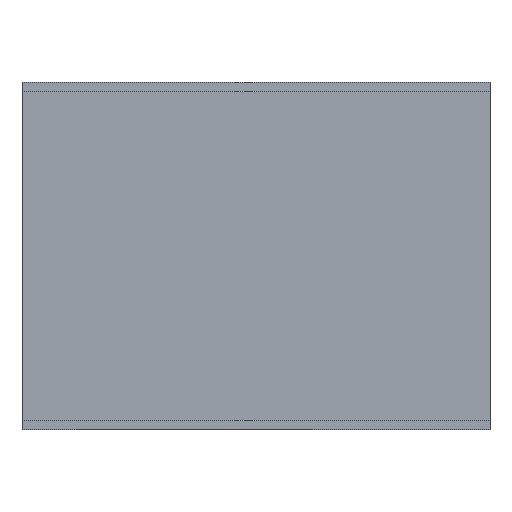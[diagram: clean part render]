
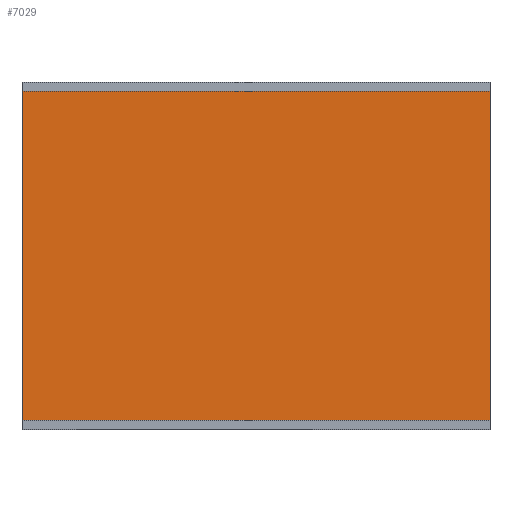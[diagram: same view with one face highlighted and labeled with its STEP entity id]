
A CAD part, top view. The second image highlights one B-rep face of the part: STEP entity #7029.
In plain terms, the highlighted planar face has unit normal (0, 0, 1).
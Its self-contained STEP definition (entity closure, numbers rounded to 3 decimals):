
#5402 = VERTEX_POINT('',#5403);
#5403 = CARTESIAN_POINT('',(0.,3.,100.));
#5410 = PLANE('',#5411);
#5411 = AXIS2_PLACEMENT_3D('',#5412,#5413,#5414);
#5412 = CARTESIAN_POINT('',(0.,3.,0.));
#5413 = DIRECTION('',(1.,0.,0.));
#5414 = DIRECTION('',(0.,0.,1.));
#5422 = PLANE('',#5423);
#5423 = AXIS2_PLACEMENT_3D('',#5424,#5425,#5426);
#5424 = CARTESIAN_POINT('',(0.,3.,0.));
#5425 = DIRECTION('',(0.,1.,0.));
#5426 = DIRECTION('',(0.,0.,1.));
#5463 = VERTEX_POINT('',#5464);
#5464 = CARTESIAN_POINT('',(0.,112.,100.));
#5478 = PLANE('',#5479);
#5479 = AXIS2_PLACEMENT_3D('',#5480,#5481,#5482);
#5480 = CARTESIAN_POINT('',(0.,112.,0.));
#5481 = DIRECTION('',(0.,1.,0.));
#5482 = DIRECTION('',(0.,0.,1.));
#5490 = EDGE_CURVE('',#5402,#5463,#5491,.T.);
#5491 = SURFACE_CURVE('',#5492,(#5496,#5503),.PCURVE_S1.);
#5492 = LINE('',#5493,#5494);
#5493 = CARTESIAN_POINT('',(0.,3.,100.));
#5494 = VECTOR('',#5495,1.);
#5495 = DIRECTION('',(0.,1.,0.));
#5496 = PCURVE('',#5410,#5497);
#5497 = DEFINITIONAL_REPRESENTATION('',(#5498),#5502);
#5498 = LINE('',#5499,#5500);
#5499 = CARTESIAN_POINT('',(100.,0.));
#5500 = VECTOR('',#5501,1.);
#5501 = DIRECTION('',(0.,-1.));
#5502 = ( GEOMETRIC_REPRESENTATION_CONTEXT(2) 
PARAMETRIC_REPRESENTATION_CONTEXT() REPRESENTATION_CONTEXT('2D SPACE',''
  ) );
#5503 = PCURVE('',#5504,#5509);
#5504 = PLANE('',#5505);
#5505 = AXIS2_PLACEMENT_3D('',#5506,#5507,#5508);
#5506 = CARTESIAN_POINT('',(0.,3.,100.));
#5507 = DIRECTION('',(0.,0.,1.));
#5508 = DIRECTION('',(1.,0.,0.));
#5509 = DEFINITIONAL_REPRESENTATION('',(#5510),#5514);
#5510 = LINE('',#5511,#5512);
#5511 = CARTESIAN_POINT('',(0.,0.));
#5512 = VECTOR('',#5513,1.);
#5513 = DIRECTION('',(0.,1.));
#5514 = ( GEOMETRIC_REPRESENTATION_CONTEXT(2) 
PARAMETRIC_REPRESENTATION_CONTEXT() REPRESENTATION_CONTEXT('2D SPACE',''
  ) );
#6875 = EDGE_CURVE('',#5402,#6876,#6878,.T.);
#6876 = VERTEX_POINT('',#6877);
#6877 = CARTESIAN_POINT('',(155.,3.,100.));
#6878 = SURFACE_CURVE('',#6879,(#6883,#6890),.PCURVE_S1.);
#6879 = LINE('',#6880,#6881);
#6880 = CARTESIAN_POINT('',(0.,3.,100.));
#6881 = VECTOR('',#6882,1.);
#6882 = DIRECTION('',(1.,0.,0.));
#6883 = PCURVE('',#5422,#6884);
#6884 = DEFINITIONAL_REPRESENTATION('',(#6885),#6889);
#6885 = LINE('',#6886,#6887);
#6886 = CARTESIAN_POINT('',(100.,0.));
#6887 = VECTOR('',#6888,1.);
#6888 = DIRECTION('',(0.,1.));
#6889 = ( GEOMETRIC_REPRESENTATION_CONTEXT(2) 
PARAMETRIC_REPRESENTATION_CONTEXT() REPRESENTATION_CONTEXT('2D SPACE',''
  ) );
#6890 = PCURVE('',#5504,#6891);
#6891 = DEFINITIONAL_REPRESENTATION('',(#6892),#6896);
#6892 = LINE('',#6893,#6894);
#6893 = CARTESIAN_POINT('',(0.,0.));
#6894 = VECTOR('',#6895,1.);
#6895 = DIRECTION('',(1.,0.));
#6896 = ( GEOMETRIC_REPRESENTATION_CONTEXT(2) 
PARAMETRIC_REPRESENTATION_CONTEXT() REPRESENTATION_CONTEXT('2D SPACE',''
  ) );
#6912 = PLANE('',#6913);
#6913 = AXIS2_PLACEMENT_3D('',#6914,#6915,#6916);
#6914 = CARTESIAN_POINT('',(155.,3.,0.));
#6915 = DIRECTION('',(1.,0.,0.));
#6916 = DIRECTION('',(0.,0.,1.));
#7029 = ADVANCED_FACE('',(#7030),#5504,.T.);
#7030 = FACE_BOUND('',#7031,.T.);
#7031 = EDGE_LOOP('',(#7032,#7033,#7034,#7057));
#7032 = ORIENTED_EDGE('',*,*,#5490,.F.);
#7033 = ORIENTED_EDGE('',*,*,#6875,.T.);
#7034 = ORIENTED_EDGE('',*,*,#7035,.T.);
#7035 = EDGE_CURVE('',#6876,#7036,#7038,.T.);
#7036 = VERTEX_POINT('',#7037);
#7037 = CARTESIAN_POINT('',(155.,112.,100.));
#7038 = SURFACE_CURVE('',#7039,(#7043,#7050),.PCURVE_S1.);
#7039 = LINE('',#7040,#7041);
#7040 = CARTESIAN_POINT('',(155.,3.,100.));
#7041 = VECTOR('',#7042,1.);
#7042 = DIRECTION('',(0.,1.,0.));
#7043 = PCURVE('',#5504,#7044);
#7044 = DEFINITIONAL_REPRESENTATION('',(#7045),#7049);
#7045 = LINE('',#7046,#7047);
#7046 = CARTESIAN_POINT('',(155.,0.));
#7047 = VECTOR('',#7048,1.);
#7048 = DIRECTION('',(0.,1.));
#7049 = ( GEOMETRIC_REPRESENTATION_CONTEXT(2) 
PARAMETRIC_REPRESENTATION_CONTEXT() REPRESENTATION_CONTEXT('2D SPACE',''
  ) );
#7050 = PCURVE('',#6912,#7051);
#7051 = DEFINITIONAL_REPRESENTATION('',(#7052),#7056);
#7052 = LINE('',#7053,#7054);
#7053 = CARTESIAN_POINT('',(100.,0.));
#7054 = VECTOR('',#7055,1.);
#7055 = DIRECTION('',(0.,-1.));
#7056 = ( GEOMETRIC_REPRESENTATION_CONTEXT(2) 
PARAMETRIC_REPRESENTATION_CONTEXT() REPRESENTATION_CONTEXT('2D SPACE',''
  ) );
#7057 = ORIENTED_EDGE('',*,*,#7058,.F.);
#7058 = EDGE_CURVE('',#5463,#7036,#7059,.T.);
#7059 = SURFACE_CURVE('',#7060,(#7064,#7071),.PCURVE_S1.);
#7060 = LINE('',#7061,#7062);
#7061 = CARTESIAN_POINT('',(0.,112.,100.));
#7062 = VECTOR('',#7063,1.);
#7063 = DIRECTION('',(1.,0.,0.));
#7064 = PCURVE('',#5504,#7065);
#7065 = DEFINITIONAL_REPRESENTATION('',(#7066),#7070);
#7066 = LINE('',#7067,#7068);
#7067 = CARTESIAN_POINT('',(0.,109.));
#7068 = VECTOR('',#7069,1.);
#7069 = DIRECTION('',(1.,0.));
#7070 = ( GEOMETRIC_REPRESENTATION_CONTEXT(2) 
PARAMETRIC_REPRESENTATION_CONTEXT() REPRESENTATION_CONTEXT('2D SPACE',''
  ) );
#7071 = PCURVE('',#5478,#7072);
#7072 = DEFINITIONAL_REPRESENTATION('',(#7073),#7077);
#7073 = LINE('',#7074,#7075);
#7074 = CARTESIAN_POINT('',(100.,0.));
#7075 = VECTOR('',#7076,1.);
#7076 = DIRECTION('',(0.,1.));
#7077 = ( GEOMETRIC_REPRESENTATION_CONTEXT(2) 
PARAMETRIC_REPRESENTATION_CONTEXT() REPRESENTATION_CONTEXT('2D SPACE',''
  ) );
